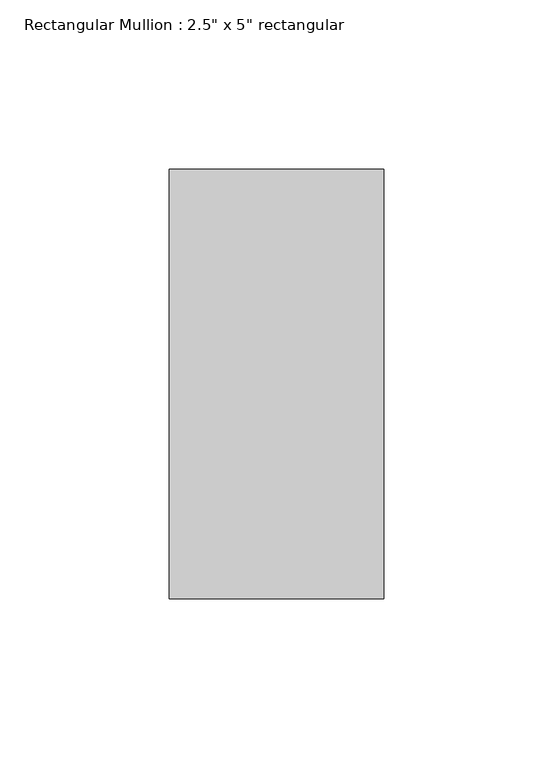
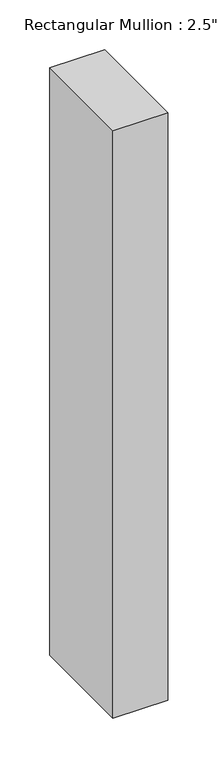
"""IFC4 building model written with IfcOpenShell, lengths in millimetres: member geometry."""

from ifc_helpers import new_model, si_unit, frame, origin, place, context, project, spatial, polyline, outline, extrude, source, transform, mapped, element, save


def member_ed0c528d(model_context):
    return source(origin(), model_context, "Body", "SweptSolid", [
        extrude(outline(polyline([(0.0, 50.8), (0.0, -76.2), (-63.5, -76.2), (-63.5, 50.8), (0.0, 50.8)])), frame((0.0, 0.0, -720.4220137), z_axis=(0.0, 0.0, 1.0), x_axis=(1.0, 0.0, 0.0)), (0.0, 0.0, 1.0), 720.4220137),
    ])


if __name__ == "__main__":
    model = new_model("IFC4")
    model_context = context("Model", 3, world=origin())
    ifc_project = project(units=[si_unit("LENGTHUNIT", "METRE", prefix="MILLI")], contexts=[model_context])
    site = spatial("IfcSite", under=ifc_project)
    building = spatial("IfcBuilding", under=site)
    placement = place(None, origin())
    member_shape = member_ed0c528d(model_context)
    element("IfcMember", 1, ObjectType="Rectangular Mullion : 2.5\" x 5\" rectangular", at=placement, inside=building, context=model_context, shape_type="MappedRepresentation", body=[
        mapped(member_shape, transform((0.0, 0.0, 0.0), x_axis=(1.0, 0.0, 0.0), y_axis=(0.0, 1.0, 0.0), z_axis=(0.0, 0.0, 1.0))),
    ])
    save(model, "model.ifc")
